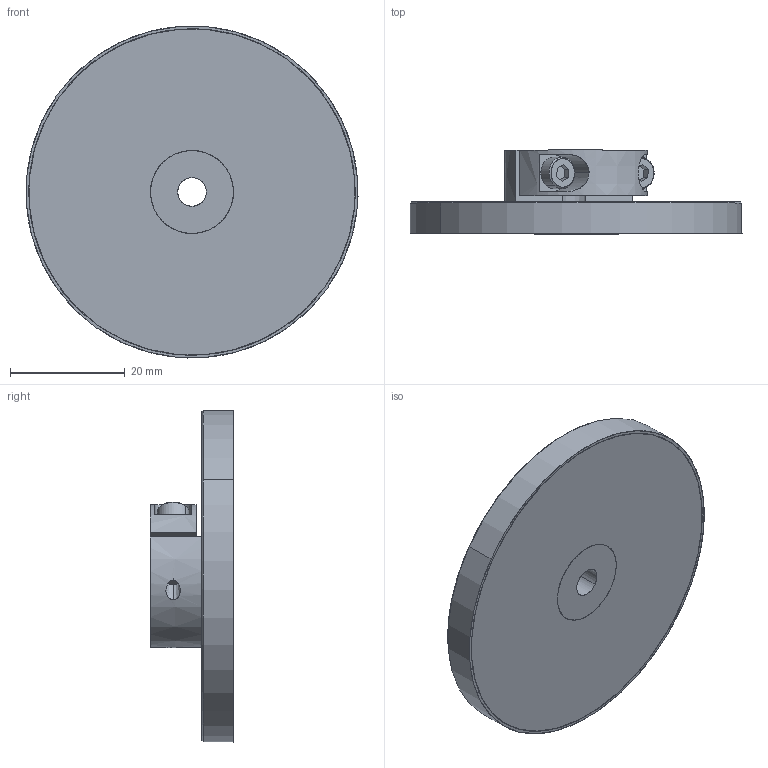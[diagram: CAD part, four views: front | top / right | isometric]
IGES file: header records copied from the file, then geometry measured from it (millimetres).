
Start section: SolidWorks IGES file using analytic representation for surfaces
Global section: file name: C:\Zettlex Data\Mechanical Drawings\1615\58mm Shaft Clamp Rotor 5.00mm Rev 1-0.IGS; native system: SolidWorks 2015; preprocessor: SolidWorks 2015; author: Nigel; date: 150907.174200; units: millimetre
Bounding box: 57.98 x 14.6 x 57.98 mm (x, y, z)
Surface area: 8656.5 mm2 (no closed solid volume)
Topology: 0 solids, 0 shells, 805 faces, 9792 edges, 9792 vertices
Faces by surface type: bspline 757, revolution 48
